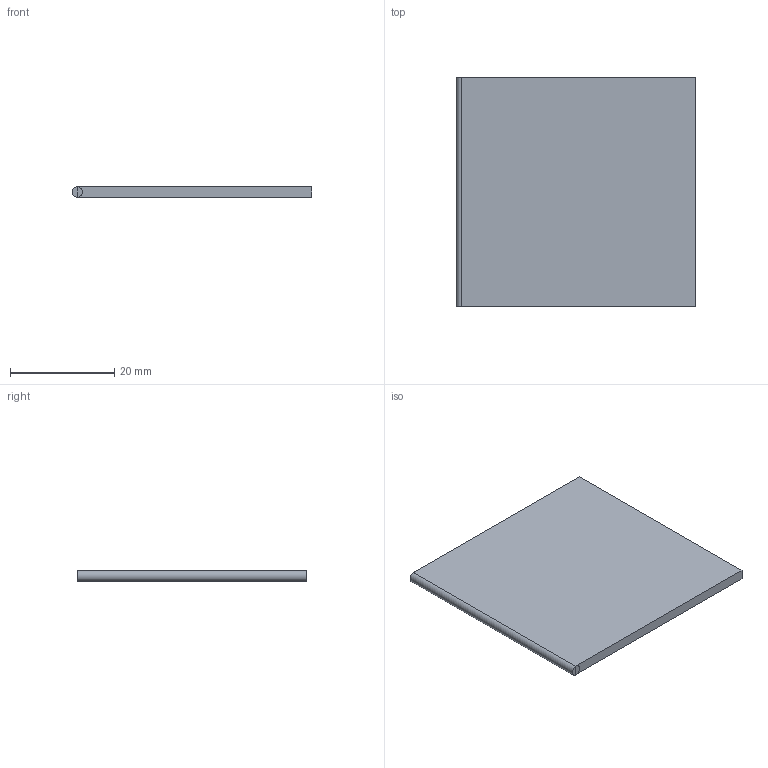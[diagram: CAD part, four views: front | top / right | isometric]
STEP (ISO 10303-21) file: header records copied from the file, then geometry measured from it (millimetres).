
FILE_DESCRIPTION(('Open CASCADE Model'),'2;1');
FILE_NAME('Open CASCADE Shape Model','2026-10-04T02:31:41',('Author'),( 'Open CASCADE'),'Open CASCADE STEP processor 8.0','Open CASCADE 8.0' ,'Unknown');
FILE_SCHEMA(('AUTOMOTIVE_DESIGN { 1 0 10303 214 1 1 1 1 }'));
Length unit declared in the file: millimetre
Products named in the file (1): Open CASCADE STEP translator 8.0 274
Bounding box: 46 x 44 x 2 mm (x, y, z)
Volume: 4029.1 mm3; surface area: 4369.4 mm2
Topology: 1 solids, 1 shells, 10 faces, 16 edges, 8 vertices
Faces by surface type: plane 9, cylinder 1
Entity records: 437 total; most frequent: DIRECTION 73, CARTESIAN_POINT 68, LINE 37, VECTOR 37, ORIENTED_EDGE 32, PCURVE 32, DEFINITIONAL_REPRESENTATION 32, EDGE_CURVE 16
